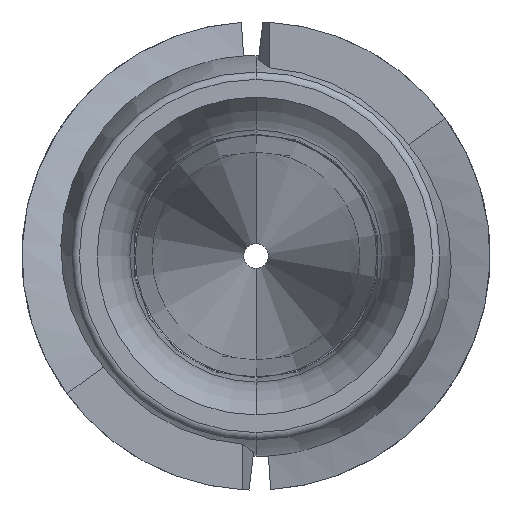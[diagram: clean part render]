
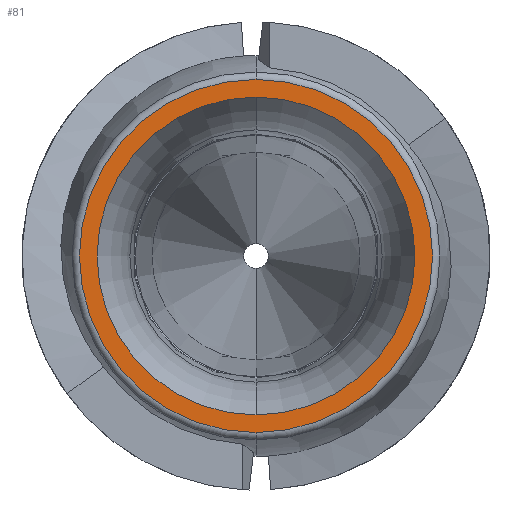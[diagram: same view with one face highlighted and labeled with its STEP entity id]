
A CAD part, front view. The second image highlights one B-rep face of the part: STEP entity #81.
In plain terms, the highlighted planar face has unit normal (0, -1, 0).
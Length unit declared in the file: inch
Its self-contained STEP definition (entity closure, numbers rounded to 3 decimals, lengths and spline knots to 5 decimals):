
#81 = ADVANCED_FACE ( 'NONE', ( #1624, #944 ), #1771, .F. ) ;
#143 = CARTESIAN_POINT ( 'NONE',  ( 0., 0., -0.11541 ) ) ;
#253 = EDGE_LOOP ( 'NONE', ( #1915, #1409 ) ) ;
#301 = CARTESIAN_POINT ( 'NONE',  ( 0., 0., 0.10388 ) ) ;
#306 = EDGE_CURVE ( 'NONE', #435, #1866, #989, .T. ) ;
#359 = CIRCLE ( 'NONE', #1301, 0.10388 ) ;
#420 = VERTEX_POINT ( 'NONE', #143 ) ;
#425 = CIRCLE ( 'NONE', #605, 0.11541 ) ;
#435 = VERTEX_POINT ( 'NONE', #1980 ) ;
#452 = DIRECTION ( 'NONE',  ( 0., 0., 1. ) ) ;
#464 = AXIS2_PLACEMENT_3D ( 'NONE', #918, #754, #1196 ) ;
#587 = ORIENTED_EDGE ( 'NONE', *, *, #1766, .T. ) ;
#602 = ORIENTED_EDGE ( 'NONE', *, *, #1709, .T. ) ;
#605 = AXIS2_PLACEMENT_3D ( 'NONE', #2085, #618, #966 ) ;
#618 = DIRECTION ( 'NONE',  ( 0., -1., 0. ) ) ;
#740 = DIRECTION ( 'NONE',  ( 0., -1., 0. ) ) ;
#754 = DIRECTION ( 'NONE',  ( 0., -1., 0. ) ) ;
#918 = CARTESIAN_POINT ( 'NONE',  ( 0., 0., 0. ) ) ;
#943 = DIRECTION ( 'NONE',  ( 0., -1., 0. ) ) ;
#944 = FACE_BOUND ( 'NONE', #253, .T. ) ;
#966 = DIRECTION ( 'NONE',  ( 0., 0., 1. ) ) ;
#968 = DIRECTION ( 'NONE',  ( 0., 1., 0. ) ) ;
#977 = CARTESIAN_POINT ( 'NONE',  ( 0.11912, 0., 0. ) ) ;
#989 = CIRCLE ( 'NONE', #2092, 0.10388 ) ;
#1121 = VERTEX_POINT ( 'NONE', #1127 ) ;
#1127 = CARTESIAN_POINT ( 'NONE',  ( 0., 0., 0.11541 ) ) ;
#1196 = DIRECTION ( 'NONE',  ( 0., 0., 1. ) ) ;
#1281 = CARTESIAN_POINT ( 'NONE',  ( 0., 0., 0. ) ) ;
#1301 = AXIS2_PLACEMENT_3D ( 'NONE', #1892, #943, #1568 ) ;
#1409 = ORIENTED_EDGE ( 'NONE', *, *, #1587, .F. ) ;
#1446 = EDGE_LOOP ( 'NONE', ( #587, #602 ) ) ;
#1471 = AXIS2_PLACEMENT_3D ( 'NONE', #977, #968, #452 ) ;
#1568 = DIRECTION ( 'NONE',  ( 0., 0., -1. ) ) ;
#1587 = EDGE_CURVE ( 'NONE', #1866, #435, #359, .T. ) ;
#1624 = FACE_OUTER_BOUND ( 'NONE', #1446, .T. ) ;
#1709 = EDGE_CURVE ( 'NONE', #420, #1121, #1964, .T. ) ;
#1730 = DIRECTION ( 'NONE',  ( 0., 0., -1. ) ) ;
#1766 = EDGE_CURVE ( 'NONE', #1121, #420, #425, .T. ) ;
#1771 = PLANE ( 'NONE',  #1471 ) ;
#1866 = VERTEX_POINT ( 'NONE', #301 ) ;
#1892 = CARTESIAN_POINT ( 'NONE',  ( 0., 0., 0. ) ) ;
#1915 = ORIENTED_EDGE ( 'NONE', *, *, #306, .F. ) ;
#1964 = CIRCLE ( 'NONE', #464, 0.11541 ) ;
#1980 = CARTESIAN_POINT ( 'NONE',  ( 0., 0., -0.10388 ) ) ;
#2085 = CARTESIAN_POINT ( 'NONE',  ( 0., 0., 0. ) ) ;
#2092 = AXIS2_PLACEMENT_3D ( 'NONE', #1281, #740, #1730 ) ;
